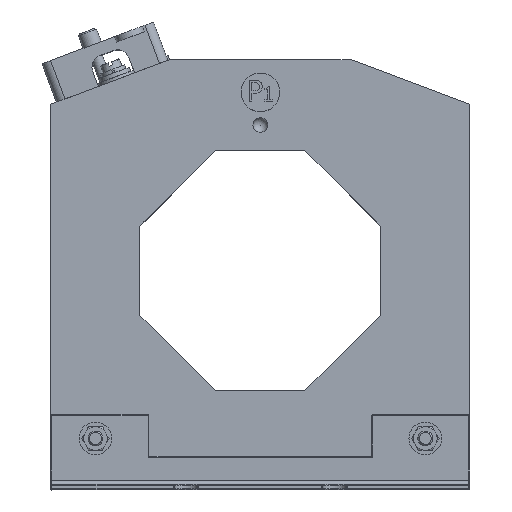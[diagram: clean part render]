
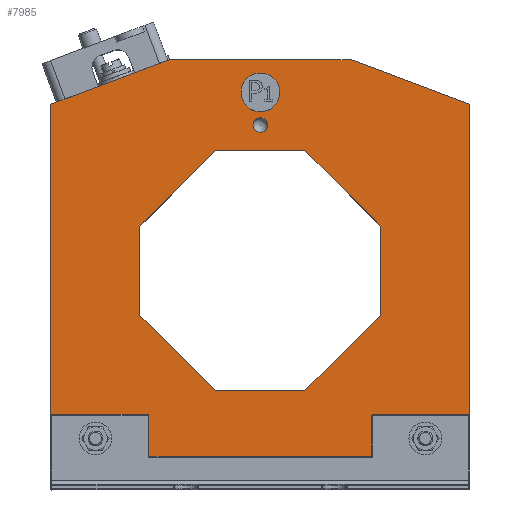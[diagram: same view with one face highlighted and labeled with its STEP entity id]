
A CAD part, top view. The second image highlights one B-rep face of the part: STEP entity #7985.
In plain terms, the highlighted planar face has unit normal (0, 0, 1).
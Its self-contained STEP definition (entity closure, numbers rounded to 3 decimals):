
#425=FACE_BOUND('',#2752,.T.);
#426=FACE_BOUND('',#2753,.T.);
#427=FACE_BOUND('',#2754,.T.);
#428=FACE_BOUND('',#2755,.T.);
#429=FACE_BOUND('',#2756,.T.);
#825=LINE('',#13324,#1465);
#839=LINE('',#13363,#1479);
#843=LINE('',#13370,#1483);
#846=LINE('',#13376,#1486);
#849=LINE('',#13382,#1489);
#852=LINE('',#13388,#1492);
#855=LINE('',#13394,#1495);
#858=LINE('',#13400,#1498);
#860=LINE('',#13403,#1500);
#864=LINE('',#13417,#1504);
#868=LINE('',#13427,#1508);
#870=LINE('',#13432,#1510);
#873=LINE('',#13438,#1513);
#876=LINE('',#13442,#1516);
#1465=VECTOR('',#9836,10.);
#1479=VECTOR('',#9876,10.);
#1483=VECTOR('',#9882,10.);
#1486=VECTOR('',#9887,10.);
#1489=VECTOR('',#9892,10.);
#1492=VECTOR('',#9897,10.);
#1495=VECTOR('',#9902,10.);
#1498=VECTOR('',#9907,10.);
#1500=VECTOR('',#9911,10.);
#1504=VECTOR('',#9923,10.);
#1508=VECTOR('',#9935,10.);
#1510=VECTOR('',#9939,10.);
#1513=VECTOR('',#9944,10.);
#1516=VECTOR('',#9949,10.);
#1978=PLANE('',#8701);
#2243=FACE_OUTER_BOUND('',#2751,.T.);
#2751=EDGE_LOOP('',(#6139,#6140,#6141,#6142,#6143,#6144,#6145,#6146));
#2752=EDGE_LOOP('',(#6147));
#2753=EDGE_LOOP('',(#6148));
#2754=EDGE_LOOP('',(#6149));
#2755=EDGE_LOOP('',(#6150));
#2756=EDGE_LOOP('',(#6151,#6152,#6153,#6154,#6155,#6156,#6157,#6158));
#3120=CIRCLE('',#8568,2.5);
#3122=CIRCLE('',#8592,6.5);
#3148=CIRCLE('',#8676,2.5);
#3150=CIRCLE('',#8679,2.5);
#3153=CIRCLE('',#8691,5.);
#3155=CIRCLE('',#8695,5.);
#3487=VERTEX_POINT('',#11776);
#3543=VERTEX_POINT('',#12090);
#3717=VERTEX_POINT('',#13321);
#3718=VERTEX_POINT('',#13323);
#3723=VERTEX_POINT('',#13345);
#3725=VERTEX_POINT('',#13351);
#3729=VERTEX_POINT('',#13360);
#3730=VERTEX_POINT('',#13362);
#3732=VERTEX_POINT('',#13368);
#3734=VERTEX_POINT('',#13374);
#3736=VERTEX_POINT('',#13380);
#3738=VERTEX_POINT('',#13386);
#3740=VERTEX_POINT('',#13392);
#3742=VERTEX_POINT('',#13398);
#3745=VERTEX_POINT('',#13408);
#3746=VERTEX_POINT('',#13410);
#3748=VERTEX_POINT('',#13416);
#3750=VERTEX_POINT('',#13422);
#3752=VERTEX_POINT('',#13431);
#3754=VERTEX_POINT('',#13437);
#4200=EDGE_CURVE('',#3487,#3487,#3120,.T.);
#4283=EDGE_CURVE('',#3543,#3543,#3122,.T.);
#4540=EDGE_CURVE('',#3718,#3717,#825,.T.);
#4551=EDGE_CURVE('',#3723,#3723,#3148,.T.);
#4554=EDGE_CURVE('',#3725,#3725,#3150,.T.);
#4559=EDGE_CURVE('',#3730,#3729,#839,.T.);
#4563=EDGE_CURVE('',#3729,#3732,#843,.T.);
#4566=EDGE_CURVE('',#3732,#3734,#846,.T.);
#4569=EDGE_CURVE('',#3734,#3736,#849,.T.);
#4572=EDGE_CURVE('',#3736,#3738,#852,.T.);
#4575=EDGE_CURVE('',#3738,#3740,#855,.T.);
#4578=EDGE_CURVE('',#3740,#3742,#858,.T.);
#4580=EDGE_CURVE('',#3742,#3730,#860,.T.);
#4583=EDGE_CURVE('',#3746,#3745,#3153,.T.);
#4586=EDGE_CURVE('',#3748,#3746,#864,.T.);
#4589=EDGE_CURVE('',#3750,#3748,#3155,.T.);
#4592=EDGE_CURVE('',#3717,#3750,#868,.T.);
#4594=EDGE_CURVE('',#3752,#3718,#870,.T.);
#4597=EDGE_CURVE('',#3754,#3752,#873,.T.);
#4600=EDGE_CURVE('',#3745,#3754,#876,.T.);
#6139=ORIENTED_EDGE('',*,*,#4600,.T.);
#6140=ORIENTED_EDGE('',*,*,#4597,.T.);
#6141=ORIENTED_EDGE('',*,*,#4594,.T.);
#6142=ORIENTED_EDGE('',*,*,#4540,.T.);
#6143=ORIENTED_EDGE('',*,*,#4592,.T.);
#6144=ORIENTED_EDGE('',*,*,#4589,.T.);
#6145=ORIENTED_EDGE('',*,*,#4586,.T.);
#6146=ORIENTED_EDGE('',*,*,#4583,.T.);
#6147=ORIENTED_EDGE('',*,*,#4200,.T.);
#6148=ORIENTED_EDGE('',*,*,#4283,.T.);
#6149=ORIENTED_EDGE('',*,*,#4551,.T.);
#6150=ORIENTED_EDGE('',*,*,#4554,.T.);
#6151=ORIENTED_EDGE('',*,*,#4559,.T.);
#6152=ORIENTED_EDGE('',*,*,#4563,.T.);
#6153=ORIENTED_EDGE('',*,*,#4566,.T.);
#6154=ORIENTED_EDGE('',*,*,#4569,.T.);
#6155=ORIENTED_EDGE('',*,*,#4572,.T.);
#6156=ORIENTED_EDGE('',*,*,#4575,.T.);
#6157=ORIENTED_EDGE('',*,*,#4578,.T.);
#6158=ORIENTED_EDGE('',*,*,#4580,.T.);
#7985=ADVANCED_FACE('',(#2243,#425,#426,#427,#428,#429),#1978,.T.);
#8568=AXIS2_PLACEMENT_3D('',#11777,#9427,#9428);
#8592=AXIS2_PLACEMENT_3D('',#12091,#9538,#9539);
#8676=AXIS2_PLACEMENT_3D('',#13346,#9860,#9861);
#8679=AXIS2_PLACEMENT_3D('',#13352,#9867,#9868);
#8691=AXIS2_PLACEMENT_3D('',#13411,#9917,#9918);
#8695=AXIS2_PLACEMENT_3D('',#13423,#9929,#9930);
#8701=AXIS2_PLACEMENT_3D('',#13444,#9952,#9953);
#9427=DIRECTION('center_axis',(0.,0.,-1.));
#9428=DIRECTION('ref_axis',(0.,1.,0.));
#9538=DIRECTION('center_axis',(0.,0.,-1.));
#9539=DIRECTION('ref_axis',(-1.,0.,0.));
#9836=DIRECTION('',(-0.936,-0.351,0.));
#9860=DIRECTION('center_axis',(0.,0.,-1.));
#9861=DIRECTION('ref_axis',(1.,0.,0.));
#9867=DIRECTION('center_axis',(0.,0.,-1.));
#9868=DIRECTION('ref_axis',(1.,0.,0.));
#9876=DIRECTION('',(1.,0.,0.));
#9882=DIRECTION('',(0.707,-0.707,0.));
#9887=DIRECTION('',(0.,-1.,0.));
#9892=DIRECTION('',(-0.707,-0.707,0.));
#9897=DIRECTION('',(-1.,0.,0.));
#9902=DIRECTION('',(-0.707,0.707,0.));
#9907=DIRECTION('',(0.,1.,0.));
#9911=DIRECTION('',(0.707,0.707,0.));
#9917=DIRECTION('center_axis',(0.,0.,1.));
#9918=DIRECTION('ref_axis',(0.,1.,0.));
#9923=DIRECTION('',(1.,0.,0.));
#9929=DIRECTION('center_axis',(0.,0.,1.));
#9930=DIRECTION('ref_axis',(1.,0.,0.));
#9935=DIRECTION('',(0.,-1.,0.));
#9939=DIRECTION('',(-1.,0.,0.));
#9944=DIRECTION('',(-0.936,0.351,0.));
#9949=DIRECTION('',(0.,1.,0.));
#9952=DIRECTION('center_axis',(0.,0.,1.));
#9953=DIRECTION('ref_axis',(1.,0.,0.));
#11776=CARTESIAN_POINT('',(68.,120.,55.));
#11777=CARTESIAN_POINT('Origin',(70.5,120.,55.));
#12090=CARTESIAN_POINT('',(77.,131.,55.));
#12091=CARTESIAN_POINT('Origin',(70.5,131.,55.));
#13321=CARTESIAN_POINT('',(0.,127.,55.));
#13323=CARTESIAN_POINT('',(40.,142.,55.));
#13324=CARTESIAN_POINT('',(0.,127.,55.));
#13345=CARTESIAN_POINT('',(12.5,14.5,55.));
#13346=CARTESIAN_POINT('Origin',(15.,14.5,55.));
#13351=CARTESIAN_POINT('',(123.5,14.5,55.));
#13352=CARTESIAN_POINT('Origin',(126.,14.5,55.));
#13360=CARTESIAN_POINT('',(85.469,111.5,55.));
#13362=CARTESIAN_POINT('',(55.469,111.5,55.));
#13363=CARTESIAN_POINT('',(77.984,111.5,55.));
#13368=CARTESIAN_POINT('',(110.969,86.,55.));
#13370=CARTESIAN_POINT('',(105.342,91.627,55.));
#13374=CARTESIAN_POINT('',(110.969,56.,55.));
#13376=CARTESIAN_POINT('',(110.969,62.019,55.));
#13380=CARTESIAN_POINT('',(85.469,30.5,55.));
#13382=CARTESIAN_POINT('',(91.111,36.142,55.));
#13386=CARTESIAN_POINT('',(55.469,30.5,55.));
#13388=CARTESIAN_POINT('',(62.984,30.5,55.));
#13392=CARTESIAN_POINT('',(29.969,56.,55.));
#13394=CARTESIAN_POINT('',(37.092,48.877,55.));
#13398=CARTESIAN_POINT('',(29.969,86.,55.));
#13400=CARTESIAN_POINT('',(29.969,77.019,55.));
#13403=CARTESIAN_POINT('',(48.361,104.392,55.));
#13408=CARTESIAN_POINT('',(141.,5.,55.));
#13410=CARTESIAN_POINT('',(136.,0.,55.));
#13411=CARTESIAN_POINT('Origin',(136.,5.,55.));
#13416=CARTESIAN_POINT('',(5.,0.,55.));
#13417=CARTESIAN_POINT('',(136.,0.,55.));
#13422=CARTESIAN_POINT('',(0.,5.,55.));
#13423=CARTESIAN_POINT('Origin',(5.,5.,55.));
#13427=CARTESIAN_POINT('',(0.,5.,55.));
#13431=CARTESIAN_POINT('',(101.,142.,55.));
#13432=CARTESIAN_POINT('',(40.,142.,55.));
#13437=CARTESIAN_POINT('',(141.,127.,55.));
#13438=CARTESIAN_POINT('',(101.,142.,55.));
#13442=CARTESIAN_POINT('',(141.,127.,55.));
#13444=CARTESIAN_POINT('Origin',(70.5,68.038,55.));
